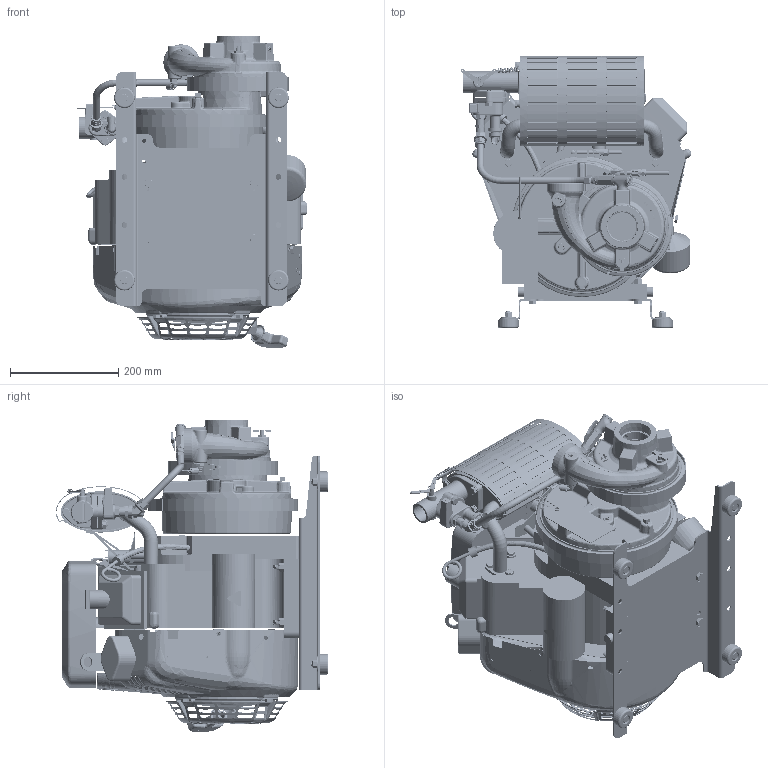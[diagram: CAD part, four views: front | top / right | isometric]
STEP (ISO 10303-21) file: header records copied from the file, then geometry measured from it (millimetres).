
FILE_DESCRIPTION (( 'STEP AP214' ), '1' );
FILE_NAME ('HPX75-B18 PUMP ASSEMBLY.STEP', '2017-10-27T12:33:46', ( '' ), ( '' ), 'SwSTEP 2.0', 'SolidWorks 2016', '' );
FILE_SCHEMA (( 'AUTOMOTIVE_DESIGN' ));
Length unit declared in the file: millimetre
Products named in the file (1): HPX75-B18 PUMP ASSEMBLY
Bounding box: 426.06 x 502.82 x 576.93 mm (x, y, z)
Surface area: 2252007.6 mm2 (no closed solid volume)
Topology: 0 solids, 450 shells, 4866 faces, 22795 edges, 17753 vertices
Faces by surface type: plane 1358, cylinder 1305, bspline 1159, torus 576, cone 426, sphere 42
Entity records: 451525 total; most frequent: CARTESIAN_POINT 238195, ORIENTED_EDGE 32392, DIRECTION 26312, EDGE_CURVE 22759, VERTEX_POINT 17743, VECTOR 9190, LINE 9190, AXIS2_PLACEMENT_3D 8561
